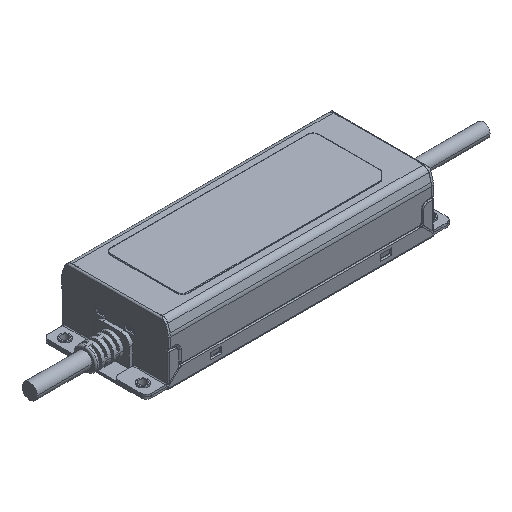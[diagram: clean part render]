
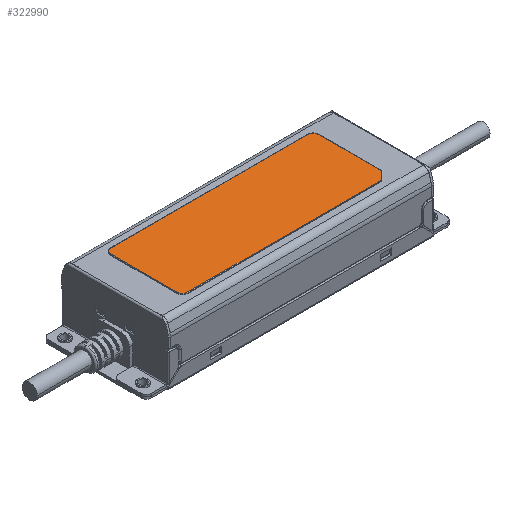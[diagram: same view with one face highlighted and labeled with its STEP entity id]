
A CAD part, isometric view. The second image highlights one B-rep face of the part: STEP entity #322990.
In plain terms, the highlighted planar face has unit normal (0, 0, 1).
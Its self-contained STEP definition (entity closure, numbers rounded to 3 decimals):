
#322250=CARTESIAN_POINT('',(149.066,46.025,34.3));
#322260=DIRECTION('',(0.,0.,1.));
#322270=DIRECTION('',(1.,0.,0.));
#322280=AXIS2_PLACEMENT_3D('',#322250,#322260,#322270);
#322290=PLANE('',#322280);
#322300=CARTESIAN_POINT('',(162.724,0.,34.3));
#322310=DIRECTION('',(-0.707,-0.707,0.));
#322320=VECTOR('',#322310,1.);
#322330=LINE('',#322300,#322320);
#322340=CARTESIAN_POINT('',(182.355,19.631,34.3));
#322350=VERTEX_POINT('',#322340);
#322360=CARTESIAN_POINT('',(177.472,14.748,34.3));
#322370=VERTEX_POINT('',#322360);
#322380=EDGE_CURVE('',#322350,#322370,#322330,.T.);
#322390=ORIENTED_EDGE('',*,*,#322380,.F.);
#322400=CARTESIAN_POINT('',(0.,14.748,34.3));
#322410=DIRECTION('',(1.,0.,0.));
#322420=VECTOR('',#322410,1.);
#322430=LINE('',#322400,#322420);
#322440=CARTESIAN_POINT('',(63.555,14.748,34.3));
#322450=VERTEX_POINT('',#322440);
#322460=EDGE_CURVE('',#322450,#322370,#322430,.T.);
#322470=ORIENTED_EDGE('',*,*,#322460,.T.);
#322480=CARTESIAN_POINT('',(63.555,18.048,34.3));
#322490=DIRECTION('',(0.,0.,-1.));
#322500=DIRECTION('',(-1.,0.,0.));
#322510=AXIS2_PLACEMENT_3D('',#322480,#322490,#322500);
#322520=CIRCLE('',#322510,3.3);
#322530=CARTESIAN_POINT('',(60.255,18.048,34.3));
#322540=VERTEX_POINT('',#322530);
#322550=EDGE_CURVE('',#322450,#322540,#322520,.T.);
#322560=ORIENTED_EDGE('',*,*,#322550,.F.);
#322570=CARTESIAN_POINT('',(60.255,0.,34.3));
#322580=DIRECTION('',(0.,-1.,0.));
#322590=VECTOR('',#322580,1.);
#322600=LINE('',#322570,#322590);
#322610=CARTESIAN_POINT('',(60.255,56.548,34.3));
#322620=VERTEX_POINT('',#322610);
#322630=EDGE_CURVE('',#322620,#322540,#322600,.T.);
#322640=ORIENTED_EDGE('',*,*,#322630,.T.);
#322650=CARTESIAN_POINT('',(63.555,56.548,34.3));
#322660=DIRECTION('',(0.,0.,1.));
#322670=DIRECTION('',(1.,0.,0.));
#322680=AXIS2_PLACEMENT_3D('',#322650,#322660,#322670);
#322690=CIRCLE('',#322680,3.3);
#322700=CARTESIAN_POINT('',(63.555,59.848,34.3));
#322710=VERTEX_POINT('',#322700);
#322720=EDGE_CURVE('',#322710,#322620,#322690,.T.);
#322730=ORIENTED_EDGE('',*,*,#322720,.T.);
#322740=CARTESIAN_POINT('',(0.,59.848,34.3));
#322750=DIRECTION('',(-1.,0.,0.));
#322760=VECTOR('',#322750,1.);
#322770=LINE('',#322740,#322760);
#322780=CARTESIAN_POINT('',(179.055,59.848,34.3));
#322790=VERTEX_POINT('',#322780);
#322800=EDGE_CURVE('',#322790,#322710,#322770,.T.);
#322810=ORIENTED_EDGE('',*,*,#322800,.T.);
#322820=CARTESIAN_POINT('',(179.055,56.548,34.3));
#322830=DIRECTION('',(0.,0.,-1.));
#322840=DIRECTION('',(-1.,0.,0.));
#322850=AXIS2_PLACEMENT_3D('',#322820,#322830,#322840);
#322860=CIRCLE('',#322850,3.3);
#322870=CARTESIAN_POINT('',(182.355,56.548,34.3));
#322880=VERTEX_POINT('',#322870);
#322890=EDGE_CURVE('',#322790,#322880,#322860,.T.);
#322900=ORIENTED_EDGE('',*,*,#322890,.F.);
#322910=CARTESIAN_POINT('',(182.355,0.,34.3));
#322920=DIRECTION('',(0.,1.,0.));
#322930=VECTOR('',#322920,1.);
#322940=LINE('',#322910,#322930);
#322950=EDGE_CURVE('',#322350,#322880,#322940,.T.);
#322960=ORIENTED_EDGE('',*,*,#322950,.T.);
#322970=EDGE_LOOP('',(#322960,#322900,#322810,#322730,#322640,#322560,
#322470,#322390));
#322980=FACE_OUTER_BOUND('',#322970,.T.);
#322990=ADVANCED_FACE('',(#322980),#322290,.T.);
